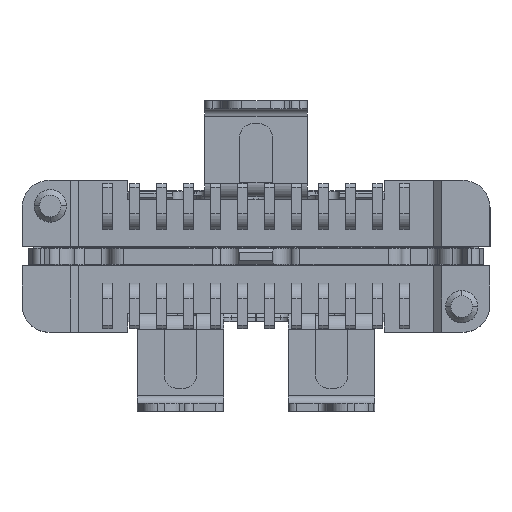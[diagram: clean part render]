
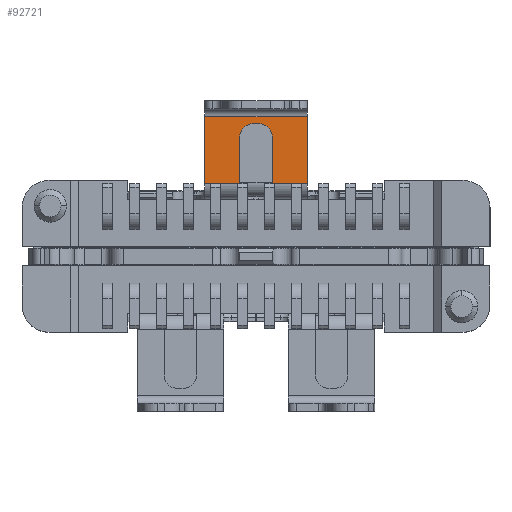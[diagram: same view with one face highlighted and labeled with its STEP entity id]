
A CAD part, top view. The second image highlights one B-rep face of the part: STEP entity #92721.
In plain terms, the highlighted planar face has unit normal (0, 0, 1).
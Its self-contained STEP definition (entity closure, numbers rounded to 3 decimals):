
#3999 = DIRECTION ( 'NONE',  ( 1., 0., 0. ) ) ;
#7697 = VECTOR ( 'NONE', #99129, 1000. ) ;
#8366 = EDGE_CURVE ( 'NONE', #68164, #55825, #60092, .T. ) ;
#9060 = CARTESIAN_POINT ( 'NONE',  ( 0.05, 3.21, -0.015 ) ) ;
#9125 = LINE ( 'NONE', #40991, #65007 ) ;
#9346 = CARTESIAN_POINT ( 'NONE',  ( 0.3, 2.96, -0.015 ) ) ;
#9382 = CARTESIAN_POINT ( 'NONE',  ( 0.3, 2.11, -0.015 ) ) ;
#10215 = VERTEX_POINT ( 'NONE', #58337 ) ;
#10658 = CARTESIAN_POINT ( 'NONE',  ( 0.95, 3.335, -0.015 ) ) ;
#13400 = PLANE ( 'NONE',  #33848 ) ;
#13669 = EDGE_LOOP ( 'NONE', ( #22786, #37424, #82771, #50038, #66881, #69716, #74472, #95619, #30380, #49325 ) ) ;
#20098 = LINE ( 'NONE', #51995, #98167 ) ;
#20462 = VERTEX_POINT ( 'NONE', #10658 ) ;
#22160 = DIRECTION ( 'NONE',  ( -1., 0., 0. ) ) ;
#22198 = EDGE_CURVE ( 'NONE', #82398, #53234, #20098, .T. ) ;
#22688 = CIRCLE ( 'NONE', #24410, 0.25 ) ;
#22786 = ORIENTED_EDGE ( 'NONE', *, *, #41388, .T. ) ;
#22967 = VERTEX_POINT ( 'NONE', #100805 ) ;
#24410 = AXIS2_PLACEMENT_3D ( 'NONE', #47170, #71716, #88920 ) ;
#26916 = DIRECTION ( 'NONE',  ( 1., 0., 0. ) ) ;
#28270 = LINE ( 'NONE', #67354, #82717 ) ;
#30380 = ORIENTED_EDGE ( 'NONE', *, *, #79417, .T. ) ;
#31139 = DIRECTION ( 'NONE',  ( 0., 1., 0. ) ) ;
#32006 = VECTOR ( 'NONE', #84593, 1000. ) ;
#32110 = VECTOR ( 'NONE', #26916, 1000. ) ;
#33848 = AXIS2_PLACEMENT_3D ( 'NONE', #77633, #61468, #3999 ) ;
#36722 = CARTESIAN_POINT ( 'NONE',  ( 0.95, 2.11, -0.015 ) ) ;
#37424 = ORIENTED_EDGE ( 'NONE', *, *, #49144, .F. ) ;
#38619 = CARTESIAN_POINT ( 'NONE',  ( 0.3, 2.11, -0.015 ) ) ;
#40991 = CARTESIAN_POINT ( 'NONE',  ( -0.3, 2.11, -0.015 ) ) ;
#41388 = EDGE_CURVE ( 'NONE', #51194, #10215, #9125, .T. ) ;
#46982 = VECTOR ( 'NONE', #63780, 1000. ) ;
#47170 = CARTESIAN_POINT ( 'NONE',  ( 0.05, 2.96, -0.015 ) ) ;
#49144 = EDGE_CURVE ( 'NONE', #53234, #10215, #97229, .T. ) ;
#49277 = CARTESIAN_POINT ( 'NONE',  ( -0.05, 3.21, -0.015 ) ) ;
#49325 = ORIENTED_EDGE ( 'NONE', *, *, #53699, .T. ) ;
#50038 = ORIENTED_EDGE ( 'NONE', *, *, #58335, .F. ) ;
#51096 = CARTESIAN_POINT ( 'NONE',  ( -0.95, 3.335, -0.015 ) ) ;
#51194 = VERTEX_POINT ( 'NONE', #100290 ) ;
#51995 = CARTESIAN_POINT ( 'NONE',  ( 0.05, 3.21, -0.015 ) ) ;
#52207 = AXIS2_PLACEMENT_3D ( 'NONE', #70873, #69850, #31139 ) ;
#53234 = VERTEX_POINT ( 'NONE', #49277 ) ;
#53699 = EDGE_CURVE ( 'NONE', #22967, #51194, #98512, .T. ) ;
#55825 = VERTEX_POINT ( 'NONE', #9346 ) ;
#57216 = DIRECTION ( 'NONE',  ( 0., 1., 0. ) ) ;
#58335 = EDGE_CURVE ( 'NONE', #55825, #82398, #22688, .T. ) ;
#58337 = CARTESIAN_POINT ( 'NONE',  ( -0.3, 2.96, -0.015 ) ) ;
#60092 = LINE ( 'NONE', #61617, #32006 ) ;
#61468 = DIRECTION ( 'NONE',  ( 0., 0., 1. ) ) ;
#61617 = CARTESIAN_POINT ( 'NONE',  ( 0.3, 2.11, -0.015 ) ) ;
#62835 = VECTOR ( 'NONE', #74480, 1000. ) ;
#63780 = DIRECTION ( 'NONE',  ( 1., 0., 0. ) ) ;
#64283 = LINE ( 'NONE', #9382, #46982 ) ;
#65007 = VECTOR ( 'NONE', #57216, 1000. ) ;
#66881 = ORIENTED_EDGE ( 'NONE', *, *, #8366, .F. ) ;
#67354 = CARTESIAN_POINT ( 'NONE',  ( 0.95, 2.11, -0.015 ) ) ;
#68164 = VERTEX_POINT ( 'NONE', #38619 ) ;
#69314 = FACE_OUTER_BOUND ( 'NONE', #13669, .T. ) ;
#69716 = ORIENTED_EDGE ( 'NONE', *, *, #91067, .T. ) ;
#69850 = DIRECTION ( 'NONE',  ( 0., 0., 1. ) ) ;
#70873 = CARTESIAN_POINT ( 'NONE',  ( -0.05, 2.96, -0.015 ) ) ;
#71716 = DIRECTION ( 'NONE',  ( 0., 0., 1. ) ) ;
#74472 = ORIENTED_EDGE ( 'NONE', *, *, #78747, .T. ) ;
#74480 = DIRECTION ( 'NONE',  ( 0., -1., 0. ) ) ;
#75518 = CARTESIAN_POINT ( 'NONE',  ( -0.95, 2.11, -0.015 ) ) ;
#77633 = CARTESIAN_POINT ( 'NONE',  ( 0., 2.672, -0.015 ) ) ;
#78747 = EDGE_CURVE ( 'NONE', #81065, #20462, #28270, .T. ) ;
#79011 = EDGE_CURVE ( 'NONE', #85755, #20462, #83456, .T. ) ;
#79417 = EDGE_CURVE ( 'NONE', #85755, #22967, #90157, .T. ) ;
#80968 = CARTESIAN_POINT ( 'NONE',  ( -0.95, 3.335, -0.015 ) ) ;
#81065 = VERTEX_POINT ( 'NONE', #36722 ) ;
#82398 = VERTEX_POINT ( 'NONE', #9060 ) ;
#82717 = VECTOR ( 'NONE', #90826, 1000. ) ;
#82771 = ORIENTED_EDGE ( 'NONE', *, *, #22198, .F. ) ;
#82815 = CARTESIAN_POINT ( 'NONE',  ( -0.95, 3.335, -0.015 ) ) ;
#83456 = LINE ( 'NONE', #51096, #7697 ) ;
#84593 = DIRECTION ( 'NONE',  ( 0., 1., 0. ) ) ;
#85755 = VERTEX_POINT ( 'NONE', #80968 ) ;
#88920 = DIRECTION ( 'NONE',  ( 1., 0., 0. ) ) ;
#90157 = LINE ( 'NONE', #82815, #62835 ) ;
#90826 = DIRECTION ( 'NONE',  ( 0., 1., 0. ) ) ;
#91067 = EDGE_CURVE ( 'NONE', #68164, #81065, #64283, .T. ) ;
#92721 = ADVANCED_FACE ( 'NONE', ( #69314 ), #13400, .T. ) ;
#95619 = ORIENTED_EDGE ( 'NONE', *, *, #79011, .F. ) ;
#97229 = CIRCLE ( 'NONE', #52207, 0.25 ) ;
#98167 = VECTOR ( 'NONE', #22160, 1000. ) ;
#98512 = LINE ( 'NONE', #75518, #32110 ) ;
#99129 = DIRECTION ( 'NONE',  ( 1., 0., 0. ) ) ;
#100290 = CARTESIAN_POINT ( 'NONE',  ( -0.3, 2.11, -0.015 ) ) ;
#100805 = CARTESIAN_POINT ( 'NONE',  ( -0.95, 2.11, -0.015 ) ) ;
